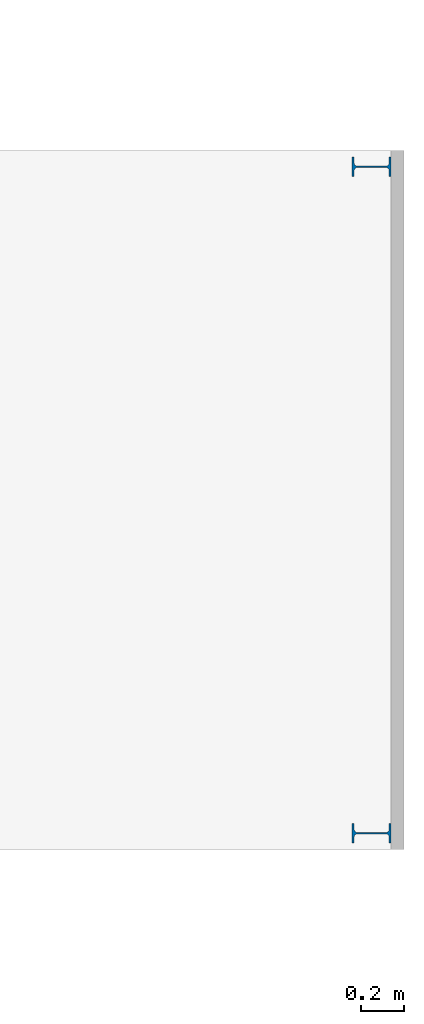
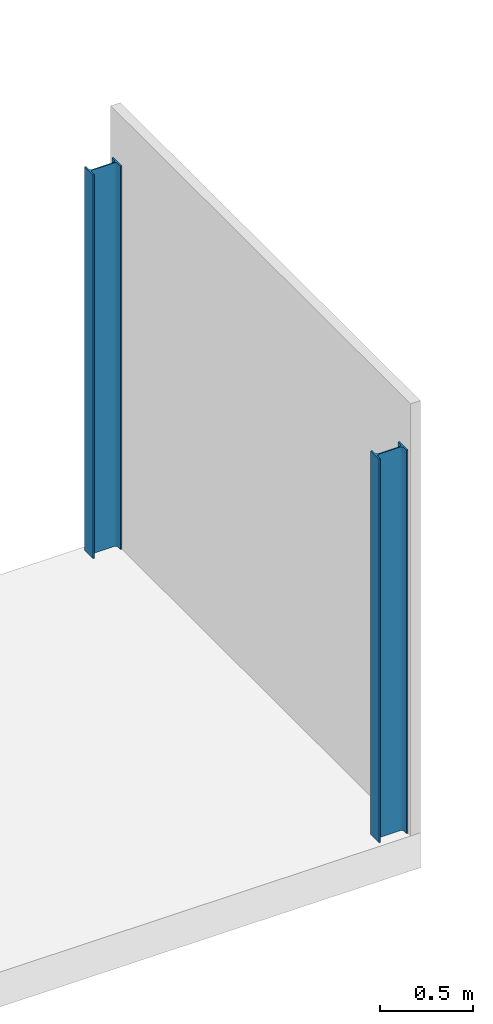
# One storey, part 10 of 137: 2 columns.
"""IFC2X3 building model written with IfcOpenShell, lengths in centimetres."""

from ifc_helpers import new_model, entity, si_unit, converted_unit, derived_unit, direction, frame, frame_2d, origin, place, context, subcontext, project, spatial, polyline, circle_curve, parameter, trimmed, segment, composite_curve, outline, extrude, source, transform, mapped, material, type_object, type_shapes, element, save


model = new_model("IFC2X3")

# Units and contexts
model_context = context("Model", 3, precision=0.001, world=origin(), true_north=direction((6.12303176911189e-17, 1.0)))
body_context = subcontext(model_context, "Body", "Model", "MODEL_VIEW")
ifc_project = project(units=[si_unit("LENGTHUNIT", "METRE", prefix="CENTI"), si_unit("AREAUNIT", "SQUARE_METRE"), si_unit("VOLUMEUNIT", "CUBIC_METRE"), converted_unit("PLANEANGLEUNIT", "DEGREE", entity("IfcRatioMeasure", 0.0174532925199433), si_unit("PLANEANGLEUNIT", "RADIAN"), dimensions=[0, 0, 0, 0, 0, 0, 0]), si_unit("MASSUNIT", "GRAM", prefix="KILO"), si_unit("TIMEUNIT", "SECOND"), si_unit("FREQUENCYUNIT", "HERTZ"), si_unit("THERMODYNAMICTEMPERATUREUNIT", "DEGREE_CELSIUS"), derived_unit("THERMALTRANSMITTANCEUNIT", [(si_unit("MASSUNIT", "GRAM", prefix="KILO"), 1), (si_unit("THERMODYNAMICTEMPERATUREUNIT", "KELVIN"), -1), (si_unit("TIMEUNIT", "SECOND"), -3)]), derived_unit("VOLUMETRICFLOWRATEUNIT", [(si_unit("LENGTHUNIT", "METRE"), 3), (si_unit("TIMEUNIT", "SECOND"), -1)]), si_unit("ELECTRICCURRENTUNIT", "AMPERE"), si_unit("ELECTRICVOLTAGEUNIT", "VOLT"), si_unit("POWERUNIT", "WATT"), si_unit("FORCEUNIT", "NEWTON", prefix="KILO"), si_unit("ILLUMINANCEUNIT", "LUX"), si_unit("LUMINOUSFLUXUNIT", "LUMEN"), si_unit("LUMINOUSINTENSITYUNIT", "CANDELA"), derived_unit("USERDEFINED", [(si_unit("MASSUNIT", "GRAM", prefix="KILO"), -1), (si_unit("LENGTHUNIT", "METRE"), -2), (si_unit("TIMEUNIT", "SECOND"), 3), (si_unit("LUMINOUSFLUXUNIT", "LUMEN"), 1)]), derived_unit("LINEARVELOCITYUNIT", [(si_unit("LENGTHUNIT", "METRE"), 1), (si_unit("TIMEUNIT", "SECOND"), -1)]), si_unit("PRESSUREUNIT", "PASCAL"), derived_unit("USERDEFINED", [(si_unit("LENGTHUNIT", "METRE"), -2), (si_unit("MASSUNIT", "GRAM", prefix="KILO"), 1), (si_unit("TIMEUNIT", "SECOND"), -2)])], contexts=[model_context])

# Site, building, storey
site_placement = place(None, frame((8.62739174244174, -249.285249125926, 0.0)))
site = spatial("IfcSite", under=ifc_project, at=site_placement, Name="Default", CompositionType="ELEMENT")
building_placement = place(site_placement, origin())
building = spatial("IfcBuilding", under=site, at=building_placement, CompositionType="ELEMENT")
storey_placement = place(building_placement, origin())
storey = spatial("IfcBuildingStorey", under=building, at=storey_placement, Name="RDC", CompositionType="ELEMENT", Elevation=-8.82465566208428e-11)

# Columns
ifc_material = material(Name="Acier, 45-345")
column_type = type_object("IfcColumnType", Name="IPE 180", PredefinedType="COLUMN", material=ifc_material)
shared_shape = source(origin(), body_context, "Body", "SweptSolid", [
    extrude(outline(composite_curve([segment(polyline([(8.1, -4.5), (9.0, -4.5)]), True, "CONTINUOUS"), segment(polyline([(9.0, -4.5), (9.0, 4.5)]), True, "CONTINUOUS"), segment(polyline([(9.0, 4.5), (8.1, 4.5)]), True, "CONTINUOUS"), segment(polyline([(8.1, 4.5), (8.1, 1.8)]), True, "CONTINUOUS"), segment(trimmed(circle_curve(frame_2d((6.6, 1.8), x_axis=(1.0, 0.0)), 1.5), [parameter(270.0)], [parameter(0.0)], True, "PARAMETER"), False, "CONTINUOUS"), segment(polyline([(6.60000000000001, 0.300000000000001), (-6.6, 0.300000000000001)]), True, "CONTINUOUS"), segment(trimmed(circle_curve(frame_2d((-6.6, 1.8), x_axis=(0.0, -1.0)), 1.5), [parameter(270.0)], [parameter(0.0)], True, "PARAMETER"), False, "CONTINUOUS"), segment(polyline([(-8.1, 1.8), (-8.1, 4.5)]), True, "CONTINUOUS"), segment(polyline([(-8.1, 4.5), (-9.0, 4.5)]), True, "CONTINUOUS"), segment(polyline([(-9.0, 4.5), (-9.0, -4.5)]), True, "CONTINUOUS"), segment(polyline([(-9.0, -4.5), (-8.1, -4.5)]), True, "CONTINUOUS"), segment(polyline([(-8.1, -4.5), (-8.1, -1.8)]), True, "CONTINUOUS"), segment(trimmed(circle_curve(frame_2d((-6.6, -1.8), x_axis=(-1.0, 0.0)), 1.5), [parameter(270.0)], [parameter(0.0)], True, "PARAMETER"), False, "CONTINUOUS"), segment(polyline([(-6.6, -0.3), (6.6, -0.3)]), True, "CONTINUOUS"), segment(trimmed(circle_curve(frame_2d((6.6, -1.8), x_axis=(0.0, 1.0)), 1.5), [parameter(270.0)], [parameter(0.0)], True, "PARAMETER"), False, "CONTINUOUS"), segment(polyline([(8.1, -1.8), (8.1, -4.5)]), True, "CONTINUOUS")], self_intersect=False)), frame((0.0, 0.0, 0.0), z_axis=(0.0, 0.0, 1.0), x_axis=(0.0, -1.0, 0.0)), (0.0, 0.0, 1.0), 253.0),
])
type_shapes(column_type, [shared_shape])
for number, where, z_axis, x_axis, name in (
    (1, (4410.90482776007, 4340.77519336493, 0.0), (0.0, 0.0, 1.0), (0.0, 1.0, 0.0), "IPE-180-90:IPE 180"),
    (2, (4410.90482776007, 4649.7752229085, 0.0), (0.0, 0.0, 1.0), (0.0, 1.0, 0.0), "IPE-180-90:IPE 180"),
):
    element("IfcColumn", number, at=place(storey_placement, frame(where, z_axis=z_axis, x_axis=x_axis)), inside=storey, type_object=column_type, material=ifc_material, Name=name, ObjectType="IPE 180", context=body_context, shape_type="MappedRepresentation", body=[
        mapped(shared_shape, transform((0.0, 0.0, 0.0), scale=1.0)),
    ])

save(model, "model.ifc")
